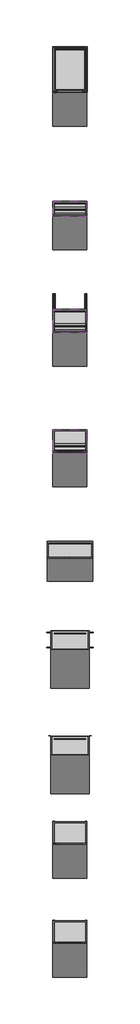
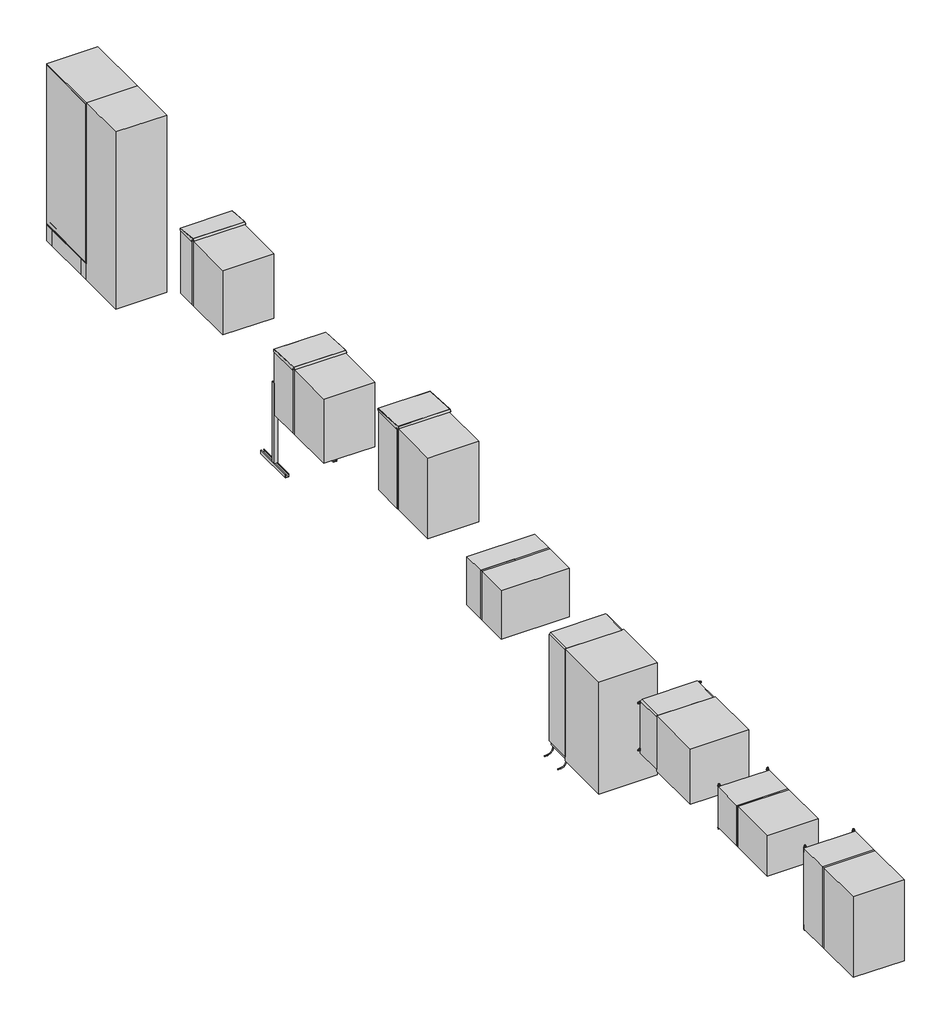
# One storey, part 1 of 6: 28 electric distribution boards.
"""IFC4 building model written with IfcOpenShell, lengths in millimetres."""

from ifc_helpers import new_model, si_unit, origin, place, context, project, spatial, transform, mapped, element, save
from components import electric_distribution_board_87cecea4, electric_distribution_board_93b78c7d, electric_distribution_board_76c4b265, electric_distribution_board_356db453, electric_distribution_board_0dde6510, electric_distribution_board_533b1d73, electric_distribution_board_b48a5c49, electric_distribution_board_a0cf2282, electric_distribution_board_032dcf66, electric_distribution_board_9c0d3578, electric_distribution_board_b6be2fe7, electric_distribution_board_ae1be2d7, electric_distribution_board_6eff1b48, electric_distribution_board_608f02f3, electric_distribution_board_496b80d3, electric_distribution_board_88516b2b, electric_distribution_board_bb44641b, electric_distribution_board_fee3de22, electric_distribution_board_4276beff, electric_distribution_board_e5e5e27e, electric_distribution_board_d1497887, electric_distribution_board_2cb2de86, electric_distribution_board_686de6ed, electric_distribution_board_24902d2d, electric_distribution_board_d3c7c81b, electric_distribution_board_64f9faa2

model = new_model("IFC4")

# Units and contexts
model_context = context("Model", 3, world=origin())
ifc_project = project(units=[si_unit("LENGTHUNIT", "METRE", prefix="MILLI")], contexts=[model_context])

# Site, building, storey
site = spatial("IfcSite", under=ifc_project)
building = spatial("IfcBuilding", under=site)
storey = spatial("IfcBuildingStorey", under=building, Name="Этаж 01", Elevation=0.0)

# Electric distribution boards
placement = place(None, origin())
electric_distribution_board_shape = electric_distribution_board_87cecea4(model_context)
element("IfcElectricDistributionBoard", 1, ObjectType="НВО_НапольныеШкафыФиберглас_DKC : 330х685х1390 мм (ГхШхВ)", at=placement, inside=storey, context=model_context, shape_type="MappedRepresentation", body=[
    mapped(electric_distribution_board_shape, transform((25834.6452885, -12618.8256546, 0.0), x_axis=(1.0, 0.0, 0.0), y_axis=(0.0, 1.0, 0.0), z_axis=(0.0, 0.0, 1.0))),
])
electric_distribution_board_2_shape = electric_distribution_board_93b78c7d(model_context)
element("IfcElectricDistributionBoard", 2, ObjectType="НВО_ШкафНапольный_DKC : 800х600х2000 (ГхШхВ) мм", at=placement, inside=storey, context=model_context, shape_type="MappedRepresentation", body=[
    mapped(electric_distribution_board_2_shape, transform((25834.6452885, -2329.3002201, 0.0), x_axis=(1.0, 0.0, 0.0), y_axis=(0.0, 1.0, 0.0), z_axis=(0.0, 0.0, 1.0))),
])
electric_distribution_board_3_shape = electric_distribution_board_76c4b265(model_context)
element("IfcElectricDistributionBoard", 3, ObjectType="DKC_Монтажная плата Фиберглас : DKC_Монтажная плата Фиберглас", at=placement, inside=storey, context=model_context, shape_type="MappedRepresentation", body=[
    mapped(electric_distribution_board_3_shape, transform((25834.6452885, -12618.8256546, 0.0), x_axis=(1.0, 0.0, 0.0), y_axis=(0.0, 1.0, 0.0), z_axis=(0.0, 0.0, 1.0))),
])
element("IfcElectricDistributionBoard", 4, ObjectType="DKC_Монтажная плата Фиберглас : DKC_Монтажная плата Фиберглас", at=placement, inside=storey, context=model_context, shape_type="MappedRepresentation", body=[
    mapped(electric_distribution_board_3_shape, transform((25834.6452885, -12618.8256546, 700.0), x_axis=(1.0, 0.0, 0.0), y_axis=(0.0, 1.0, 0.0), z_axis=(0.0, 0.0, 1.0))),
])
electric_distribution_board_4_shape = electric_distribution_board_356db453(model_context)
element("IfcElectricDistributionBoard", 5, ObjectType="DKC_Рама для крепления к полу : DKC_Рама для крепления к полу", at=placement, inside=storey, context=model_context, shape_type="MappedRepresentation", body=[
    mapped(electric_distribution_board_4_shape, transform((25834.6452885, -12618.8256546, 0.0), x_axis=(1.0, 0.0, 0.0), y_axis=(0.0, 1.0, 0.0), z_axis=(0.0, 0.0, 1.0))),
])
electric_distribution_board_5_shape = electric_distribution_board_0dde6510(model_context)
element("IfcElectricDistributionBoard", 6, ObjectType="DKC_Комплект кронштейнов для настенного крепления : DKC_Комплект кронштейнов для настенного крепления", at=placement, inside=storey, context=model_context, shape_type="MappedRepresentation", body=[
    mapped(electric_distribution_board_5_shape, transform((25834.6452885, -15983.7017778, 1000.0), x_axis=(1.0, 0.0, 0.0), y_axis=(0.0, 1.0, 0.0), z_axis=(0.0, 0.0, 1.0))),
])
electric_distribution_board_6_shape = electric_distribution_board_533b1d73(model_context)
element("IfcElectricDistributionBoard", 7, ObjectType="DKC_Комплект кронштейнов для настенного крепления : DKC_Комплект кронштейнов для настенного крепления", at=placement, inside=storey, context=model_context, shape_type="MappedRepresentation", body=[
    mapped(electric_distribution_board_6_shape, transform((25834.6452885, -17729.3002201, 800.0), x_axis=(1.0, 0.0, 0.0), y_axis=(0.0, 1.0, 0.0), z_axis=(0.0, 0.0, 1.0))),
])
electric_distribution_board_7_shape = electric_distribution_board_b48a5c49(model_context)
element("IfcElectricDistributionBoard", 8, ObjectType="НВО_НавесныеШкафыТелекоммуникационныеСтекляннаяДверца_DKC : IP31 RAL7035 400х600х1000 мм (ГхШхВ)", at=placement, inside=storey, context=model_context, shape_type="MappedRepresentation", body=[
    mapped(electric_distribution_board_7_shape, transform((25834.6452885, -17729.3002201, 0.0), x_axis=(1.0, 0.0, 0.0), y_axis=(0.0, 1.0, 0.0), z_axis=(0.0, 0.0, 1.0))),
])
electric_distribution_board_8_shape = electric_distribution_board_a0cf2282(model_context)
element("IfcElectricDistributionBoard", 9, ObjectType="DKC_Боковые панели : DKC_Боковые панели", at=placement, inside=storey, context=model_context, shape_type="MappedRepresentation", body=[
    mapped(electric_distribution_board_8_shape, transform((25834.6452885, -2329.3002201, 200.0), x_axis=(1.0, 0.0, 0.0), y_axis=(0.0, 1.0, 0.0), z_axis=(0.0, 0.0, 1.0))),
])
electric_distribution_board_9_shape = electric_distribution_board_032dcf66(model_context)
element("IfcElectricDistributionBoard", 10, ObjectType="DKC_Монтажная плата : DKC_Монтажная плата", at=placement, inside=storey, context=model_context, shape_type="MappedRepresentation", body=[
    mapped(electric_distribution_board_9_shape, transform((25834.6452885, -2329.3002201, 200.0), x_axis=(1.0, 0.0, 0.0), y_axis=(0.0, 1.0, 0.0), z_axis=(0.0, 0.0, 1.0))),
])
electric_distribution_board_10_shape = electric_distribution_board_9c0d3578(model_context)
element("IfcElectricDistributionBoard", 11, ObjectType="DKC_Цоколь угловой элемент : DKC_Цоколь угловой элемент", at=placement, inside=storey, context=model_context, shape_type="MappedRepresentation", body=[
    mapped(electric_distribution_board_10_shape, transform((25834.6452885, -2329.3002201, 0.0), x_axis=(1.0, 0.0, 0.0), y_axis=(0.0, 1.0, 0.0), z_axis=(0.0, 0.0, 1.0))),
])
electric_distribution_board_11_shape = electric_distribution_board_b6be2fe7(model_context)
element("IfcElectricDistributionBoard", 12, ObjectType="DKC_Цоколь фланцы : DKC_Цоколь фланцы", at=placement, inside=storey, context=model_context, shape_type="MappedRepresentation", body=[
    mapped(electric_distribution_board_11_shape, transform((25834.6452885, -2729.3002201, 0.0), x_axis=(0.0, 1.0, 0.0), y_axis=(-1.0, 0.0, 0.0), z_axis=(0.0, 0.0, 1.0))),
])
electric_distribution_board_12_shape = electric_distribution_board_ae1be2d7(model_context)
element("IfcElectricDistributionBoard", 13, ObjectType="DKC_Цоколь фланцы : DKC_Цоколь фланцы", at=placement, inside=storey, context=model_context, shape_type="MappedRepresentation", body=[
    mapped(electric_distribution_board_12_shape, transform((25834.6452885, -2729.3002201, 0.0), x_axis=(1.0, 0.0, 0.0), y_axis=(0.0, 1.0, 0.0), z_axis=(0.0, 0.0, 1.0))),
])
electric_distribution_board_13_shape = electric_distribution_board_6eff1b48(model_context)
element("IfcElectricDistributionBoard", 14, ObjectType="DKC_Панель для модульного оборудования : DKC_Панель для модульного оборудования", at=placement, inside=storey, context=model_context, shape_type="MappedRepresentation", body=[
    mapped(electric_distribution_board_13_shape, transform((25834.6452885, -5106.8313226, 0.0), x_axis=(1.0, 0.0, 0.0), y_axis=(0.0, 1.0, 0.0), z_axis=(0.0, 0.0, 1.0))),
])
electric_distribution_board_14_shape = electric_distribution_board_608f02f3(model_context)
element("IfcElectricDistributionBoard", 15, ObjectType="DKC_Защитный козырек : DKC_Защитный козырек", at=placement, inside=storey, context=model_context, shape_type="MappedRepresentation", body=[
    mapped(electric_distribution_board_14_shape, transform((25834.6452885, -5056.8313226, 1800.0), x_axis=(1.0, 0.0, 0.0), y_axis=(0.0, 1.0, 0.0), z_axis=(0.0, 0.0, 1.0))),
])
electric_distribution_board_15_shape = electric_distribution_board_496b80d3(model_context)
element("IfcElectricDistributionBoard", 16, ObjectType="DKC_Панель для модульного оборудования : DKC_Панель для модульного оборудования", at=placement, inside=storey, context=model_context, shape_type="MappedRepresentation", body=[
    mapped(electric_distribution_board_15_shape, transform((25834.6452885, -7160.1853259, 0.0), x_axis=(1.0, 0.0, 0.0), y_axis=(0.0, 1.0, 0.0), z_axis=(0.0, 0.0, 1.0))),
])
electric_distribution_board_16_shape = electric_distribution_board_88516b2b(model_context)
element("IfcElectricDistributionBoard", 17, ObjectType="DKC_Защитный козырек : DKC_Защитный козырек", at=placement, inside=storey, context=model_context, shape_type="MappedRepresentation", body=[
    mapped(electric_distribution_board_16_shape, transform((25834.6452885, -6960.1853259, 1450.0), x_axis=(1.0, 0.0, 0.0), y_axis=(0.0, 1.0, 0.0), z_axis=(0.0, 0.0, 1.0))),
])
element("IfcElectricDistributionBoard", 18, ObjectType="DKC_Защитный козырек : DKC_Защитный козырек", at=placement, inside=storey, context=model_context, shape_type="MappedRepresentation", body=[
    mapped(electric_distribution_board_16_shape, transform((25834.6452885, -9079.3002201, 2000.0), x_axis=(1.0, 0.0, 0.0), y_axis=(0.0, 1.0, 0.0), z_axis=(0.0, 0.0, 1.0))),
])
electric_distribution_board_17_shape = electric_distribution_board_bb44641b(model_context)
element("IfcElectricDistributionBoard", 19, ObjectType="DKC_Комплект для напольного крепления : DKC_Комплект для напольного крепления", at=placement, inside=storey, context=model_context, shape_type="MappedRepresentation", body=[
    mapped(electric_distribution_board_17_shape, transform((25834.6452885, -6960.1853259, 0.0), x_axis=(1.0, 0.0, 0.0), y_axis=(0.0, 1.0, 0.0), z_axis=(0.0, 0.0, 1.0))),
])
electric_distribution_board_18_shape = electric_distribution_board_fee3de22(model_context)
element("IfcElectricDistributionBoard", 20, ObjectType="DKC_Панель для модульного оборудования : DKC_Панель для модульного оборудования", at=placement, inside=storey, context=model_context, shape_type="MappedRepresentation", body=[
    mapped(electric_distribution_board_18_shape, transform((25834.6452885, -9279.3002201, 0.0), x_axis=(1.0, 0.0, 0.0), y_axis=(0.0, 1.0, 0.0), z_axis=(0.0, 0.0, 1.0))),
])
electric_distribution_board_19_shape = electric_distribution_board_4276beff(model_context)
element("IfcElectricDistributionBoard", 21, ObjectType="DKC_Монтажная плата Фиберглас : DKC_Монтажная плата Фиберглас", at=placement, inside=storey, context=model_context, shape_type="MappedRepresentation", body=[
    mapped(electric_distribution_board_19_shape, transform((25834.6452885, -14478.4853079, 1000.0), x_axis=(1.0, 0.0, 0.0), y_axis=(0.0, 1.0, 0.0), z_axis=(0.0, 0.0, 1.0))),
])
electric_distribution_board_20_shape = electric_distribution_board_e5e5e27e(model_context)
element("IfcElectricDistributionBoard", 22, ObjectType="DKC_Комплект кронштейнов для настенного крепления фиберглас : DKC_Комплект кронштейнов для настенного крепления фиберглас", at=placement, inside=storey, context=model_context, shape_type="MappedRepresentation", body=[
    mapped(electric_distribution_board_20_shape, transform((25834.6452885, -14478.4853079, 1050.0), x_axis=(1.0, 0.0, 0.0), y_axis=(0.0, 1.0, 0.0), z_axis=(0.0, 0.0, 1.0))),
])
electric_distribution_board_21_shape = electric_distribution_board_d1497887(model_context)
element("IfcElectricDistributionBoard", 23, ObjectType="НВО_НавесныеШкафыТелекоммуникационныеМеталлическаяДверца_DKC : IP31 RAL7035 400х600х500 мм (ГхШхВ)", at=placement, inside=storey, context=model_context, shape_type="MappedRepresentation", body=[
    mapped(electric_distribution_board_21_shape, transform((25834.6452885, -15983.7017778, 0.0), x_axis=(1.0, 0.0, 0.0), y_axis=(0.0, 1.0, 0.0), z_axis=(0.0, 0.0, 1.0))),
])
electric_distribution_board_22_shape = electric_distribution_board_2cb2de86(model_context)
element("IfcElectricDistributionBoard", 24, ObjectType="НВО_НавесныеШкафыФиберглас_DKC : 330х685х685 мм (ГхШхВ)", at=placement, inside=storey, context=model_context, shape_type="MappedRepresentation", body=[
    mapped(electric_distribution_board_22_shape, transform((25834.6452885, -14478.4853079, 0.0), x_axis=(1.0, 0.0, 0.0), y_axis=(0.0, 1.0, 0.0), z_axis=(0.0, 0.0, 1.0))),
])
electric_distribution_board_23_shape = electric_distribution_board_686de6ed(model_context)
element("IfcElectricDistributionBoard", 25, ObjectType="НВО_НавесныеШкафыДвойнаяДверца_DKC : 300х800х600 мм (ГхШхВ)", at=placement, inside=storey, context=model_context, shape_type="MappedRepresentation", body=[
    mapped(electric_distribution_board_23_shape, transform((25834.6452885, -11046.6105074, 0.0), x_axis=(1.0, 0.0, 0.0), y_axis=(0.0, 1.0, 0.0), z_axis=(0.0, 0.0, 1.0))),
])
electric_distribution_board_24_shape = electric_distribution_board_24902d2d(model_context)
element("IfcElectricDistributionBoard", 26, ObjectType="НВО_НавесныеШкафыСплошнаяДверца_DKC : 250х600х800 мм (ГхШхВ)", at=placement, inside=storey, context=model_context, shape_type="MappedRepresentation", body=[
    mapped(electric_distribution_board_24_shape, transform((25834.6452885, -5056.8313226, 0.0), x_axis=(1.0, 0.0, 0.0), y_axis=(0.0, 1.0, 0.0), z_axis=(0.0, 0.0, 1.0))),
])
electric_distribution_board_25_shape = electric_distribution_board_d3c7c81b(model_context)
element("IfcElectricDistributionBoard", 27, ObjectType="НВО_НавесныеШкафыСплошнаяДверцаКрасные_DKC : 400х600х800 мм (ГхШхВ) RAL3000", at=placement, inside=storey, context=model_context, shape_type="MappedRepresentation", body=[
    mapped(electric_distribution_board_25_shape, transform((25834.6452885, -6960.1853259, 0.0), x_axis=(1.0, 0.0, 0.0), y_axis=(0.0, 1.0, 0.0), z_axis=(0.0, 0.0, 1.0))),
])
electric_distribution_board_26_shape = electric_distribution_board_64f9faa2(model_context)
element("IfcElectricDistributionBoard", 28, ObjectType="НВО_НавесныеШкафыПрозрачнаяДверца_DKC : 400х600х1000 мм (ГхШхВ)", at=placement, inside=storey, context=model_context, shape_type="MappedRepresentation", body=[
    mapped(electric_distribution_board_26_shape, transform((25834.6452885, -9079.3002201, 0.0), x_axis=(1.0, 0.0, 0.0), y_axis=(0.0, 1.0, 0.0), z_axis=(0.0, 0.0, 1.0))),
])

save(model, "model.ifc")
